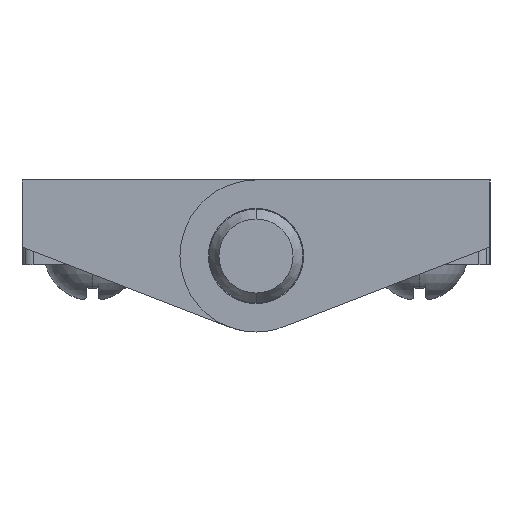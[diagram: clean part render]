
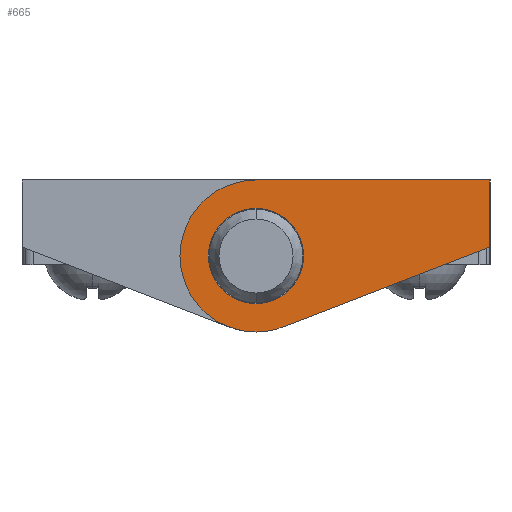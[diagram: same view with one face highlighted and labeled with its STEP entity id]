
A CAD part, left-side view. The second image highlights one B-rep face of the part: STEP entity #665.
In plain terms, the highlighted planar face has unit normal (-1, 0, 0).
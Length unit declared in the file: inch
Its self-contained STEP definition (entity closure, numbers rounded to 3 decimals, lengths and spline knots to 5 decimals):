
#665=ADVANCED_FACE('',(#1506,#1507),#1508,.F.);
#1506=FACE_OUTER_BOUND('',#2609,.T.);
#1507=FACE_BOUND('',#2610,.T.);
#1508=PLANE('',#2611);
#2609=EDGE_LOOP('',(#4263,#4264,#4265,#4266,#4267));
#2610=EDGE_LOOP('',(#4268,#4269));
#2611=AXIS2_PLACEMENT_3D('',#4270,#4271,#4272);
#4263=ORIENTED_EDGE('',*,*,#6888,.F.);
#4264=ORIENTED_EDGE('',*,*,#6659,.F.);
#4265=ORIENTED_EDGE('',*,*,#6889,.F.);
#4266=ORIENTED_EDGE('',*,*,#6890,.F.);
#4267=ORIENTED_EDGE('',*,*,#6891,.F.);
#4268=ORIENTED_EDGE('',*,*,#6892,.F.);
#4269=ORIENTED_EDGE('',*,*,#6893,.F.);
#4270=CARTESIAN_POINT('',(-5.09134,-2.15298,0.02617));
#4271=DIRECTION('',(1.0,0.0,0.));
#4272=DIRECTION('',(0.,0.0,-1.0));
#6659=EDGE_CURVE('',#8098,#8100,#8101,.T.);
#6888=EDGE_CURVE('',#8100,#8456,#8457,.T.);
#6889=EDGE_CURVE('',#8458,#8098,#8459,.T.);
#6890=EDGE_CURVE('',#8460,#8458,#8461,.T.);
#6891=EDGE_CURVE('',#8456,#8460,#8462,.T.);
#6892=EDGE_CURVE('',#8463,#8464,#8465,.T.);
#6893=EDGE_CURVE('',#8464,#8463,#8466,.T.);
#8098=VERTEX_POINT('',#10064);
#8100=VERTEX_POINT('',#10067);
#8101=LINE('',#10068,#10069);
#8456=VERTEX_POINT('',#10541);
#8457=LINE('',#10542,#10543);
#8458=VERTEX_POINT('',#10544);
#8459=LINE('',#10545,#10546);
#8460=VERTEX_POINT('',#10547);
#8461=CIRCLE('',#10548,0.203);
#8462=CIRCLE('',#10549,0.203);
#8463=VERTEX_POINT('',#10550);
#8464=VERTEX_POINT('',#10551);
#8465=CIRCLE('',#10552,0.127);
#8466=CIRCLE('',#10553,0.127);
#10064=CARTESIAN_POINT('',(-5.09134,-2.625,0.203));
#10067=CARTESIAN_POINT('',(-5.09134,-2.625,0.02362));
#10068=CARTESIAN_POINT('',(-5.09134,-2.625,0.203));
#10069=VECTOR('',#12199,0.3937);
#10541=CARTESIAN_POINT('',(-5.09134,-2.07309,-0.18938));
#10542=CARTESIAN_POINT('',(-5.09134,-2.625,0.02362));
#10543=VECTOR('',#12500,0.3937);
#10544=CARTESIAN_POINT('',(-5.09134,-2.,0.203));
#10545=CARTESIAN_POINT('',(-5.09134,-2.,0.203));
#10546=VECTOR('',#12501,0.3937);
#10547=CARTESIAN_POINT('',(-5.09134,-2.,-0.203));
#10548=AXIS2_PLACEMENT_3D('',#12502,#12503,#12504);
#10549=AXIS2_PLACEMENT_3D('',#12505,#12506,#12507);
#10550=CARTESIAN_POINT('',(-5.09134,-2.,-0.127));
#10551=CARTESIAN_POINT('',(-5.09134,-2.,0.127));
#10552=AXIS2_PLACEMENT_3D('',#12508,#12509,#12510);
#10553=AXIS2_PLACEMENT_3D('',#12511,#12512,#12513);
#12199=DIRECTION('',(0.,0.,-1.0));
#12500=DIRECTION('',(0.,0.933,-0.36));
#12501=DIRECTION('',(0.0,-1.0,0.0));
#12502=CARTESIAN_POINT('',(-5.09134,-2.,0.));
#12503=DIRECTION('',(1.0,0.0,0.));
#12504=DIRECTION('',(0.,0.0,-1.0));
#12505=CARTESIAN_POINT('',(-5.09134,-2.,0.));
#12506=DIRECTION('',(1.0,0.0,0.));
#12507=DIRECTION('',(0.,0.0,-1.0));
#12508=CARTESIAN_POINT('',(-5.09134,-2.,0.));
#12509=DIRECTION('',(-1.0,0.0,0.));
#12510=DIRECTION('',(0.,0.0,1.0));
#12511=CARTESIAN_POINT('',(-5.09134,-2.,0.));
#12512=DIRECTION('',(-1.0,0.0,0.));
#12513=DIRECTION('',(0.,0.0,1.0));
